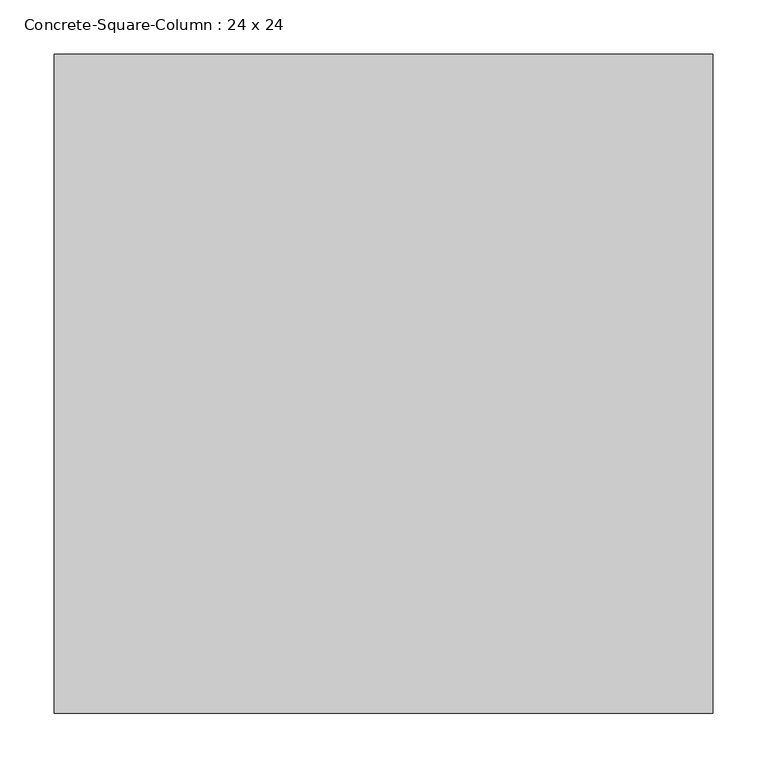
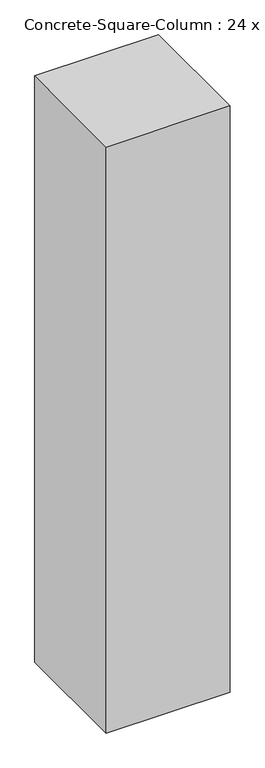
"""IFC4 building model written with IfcOpenShell, lengths in millimetres: column geometry, Concrete-Square-Column : 24 x 24."""

from ifc_helpers import new_model, si_unit, frame, origin, place, context, project, spatial, polyline, outline, extrude, source, transform, mapped, element, save


def concrete_square_column_24_x_24_7ceb939f(model_context):
    return source(origin(), model_context, "Body", "SweptSolid", [
        extrude(outline(polyline([(304.8, 304.8), (304.8, -304.8), (-304.8, -304.8), (-304.8, 304.8), (304.8, 304.8)])), frame((0.0, 0.0, -3048.0), z_axis=(0.0, 0.0, 1.0), x_axis=(1.0, 0.0, 0.0)), (0.0, 0.0, 1.0), 3048.0),
    ])


if __name__ == "__main__":
    model = new_model("IFC4")
    model_context = context("Model", 3, world=origin())
    ifc_project = project(units=[si_unit("LENGTHUNIT", "METRE", prefix="MILLI")], contexts=[model_context])
    site = spatial("IfcSite", under=ifc_project)
    building = spatial("IfcBuilding", under=site)
    placement = place(None, origin())
    concrete_square_column_24_x_24_shape = concrete_square_column_24_x_24_7ceb939f(model_context)
    element("IfcColumn", 1, ObjectType="Concrete-Square-Column : 24 x 24", at=placement, inside=building, context=model_context, shape_type="MappedRepresentation", body=[
        mapped(concrete_square_column_24_x_24_shape, transform((0.0, 0.0, 0.0), x_axis=(1.0, 0.0, 0.0), y_axis=(0.0, 1.0, 0.0), z_axis=(0.0, 0.0, 1.0))),
    ])
    save(model, "model.ifc")
